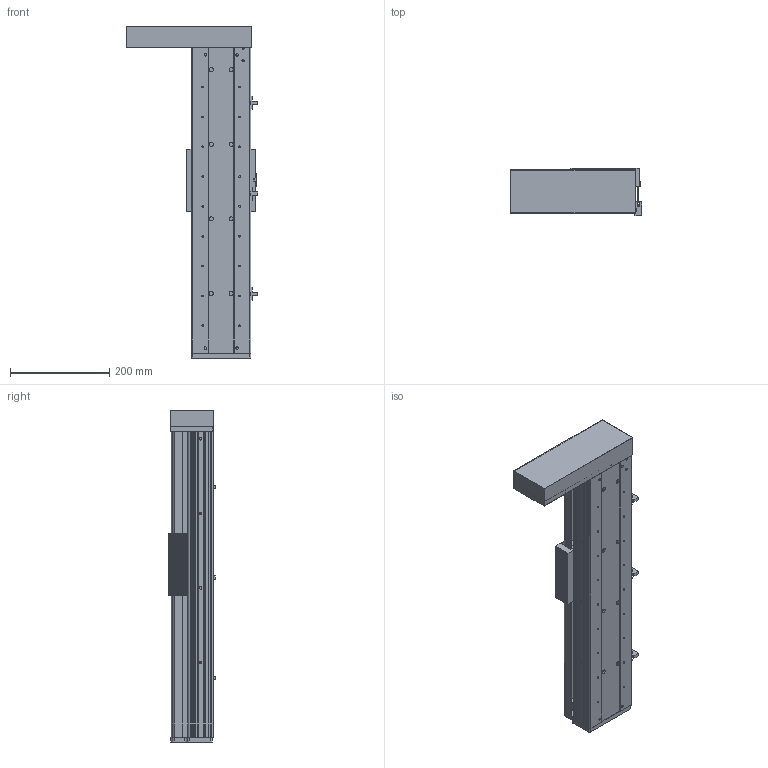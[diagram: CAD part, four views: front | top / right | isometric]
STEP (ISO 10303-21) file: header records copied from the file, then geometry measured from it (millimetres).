
FILE_DESCRIPTION (( 'STEP AP214' ), '1' );
FILE_NAME ('CF120B-C-400-FWL.STEP', '2020-01-15T08:50:24', ( '微软用户' ), ( '微软中国' ), 'SwSTEP 2.0', 'SolidWorks 2016', '' );
FILE_SCHEMA (( 'AUTOMOTIVE_DESIGN' ));
Length unit declared in the file: millimetre
Products named in the file (14): CF120-2嘐隅釱 - 萵掛; 殏俔肮祭謫欶; CF120-2耜啣; CF120-2盓厥釱; CF120B裔啣-400; CF120-2-2賑雄啣; CF120-2-1賑雄輸; EGR15絳寢-400; EGH-15-CABZnew; CF120B臏倰第-400; CF120B-C-400-FWL; 嫖萇羲壽; 75-86-95癹弇羲壽覜茼え; 120B酘殏殏萇儂啣
Assembly tree (19 placements, depth 2):
  CF120B-C-400-FWL
    CF120B臏倰第-400
    EGH-15-CABZnew  x4
    EGR15絳寢-400  x2
    CF120-2-1賑雄輸
    CF120-2-2賑雄啣
    CF120B裔啣-400
    CF120-2盓厥釱
    CF120-2耜啣
    殏俔肮祭謫欶
    CF120-2嘐隅釱 - 萵掛
    120B酘殏殏萇儂啣
    75-86-95癹弇羲壽覜茼え
    嫖萇羲壽  x3
Bounding box: 264.6 x 94.1 x 668 mm (x, y, z)
Volume: 2793939.4 mm3; surface area: 1152786.4 mm2
Topology: 15 solids, 67 shells, 7246 faces, 27538 edges, 18946 vertices
Faces by surface type: plane 3523, bspline 2348, cylinder 1003, cone 148, torus 128, sphere 96
Entity records: 130654 total; most frequent: CARTESIAN_POINT 42235, ORIENTED_EDGE 15220, DIRECTION 12007, EDGE_CURVE 8734, VERTEX_POINT 5981, LINE 5089, VECTOR 5089, AXIS2_PLACEMENT_3D 3459
